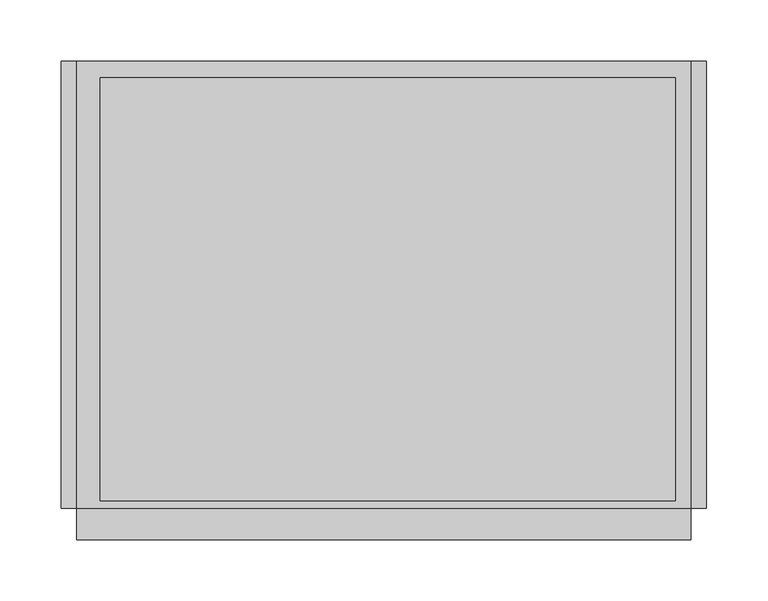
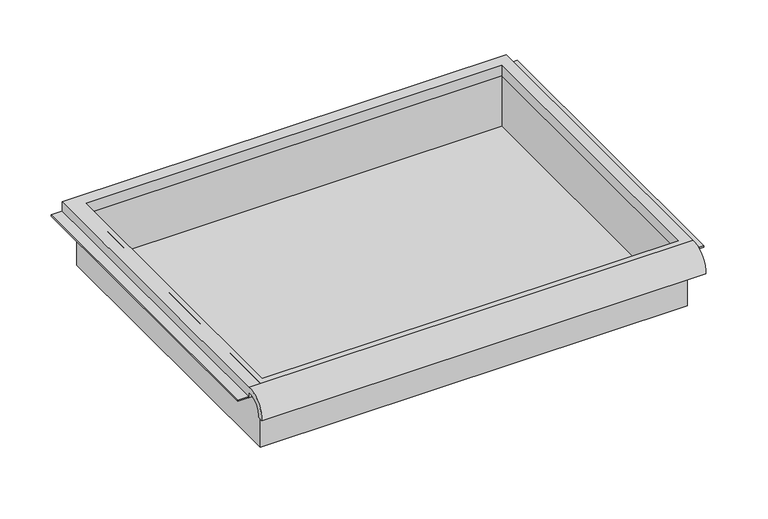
"""IFC4 building model written with IfcOpenShell, lengths in millimetres: furniture geometry."""

from ifc_helpers import new_model, si_unit, frame, origin, place, context, project, spatial, polyline, circle_curve, faceted_brep, source, transform, mapped, element, save
from ifc_brep_helpers import plane_surface, cylinder_surface, revolved_surface, advanced_brep


def furniture_97bd5955(model_context):
    return source(origin(), model_context, "Body", "SolidModel", [
        advanced_brep(
        [(263.7474999, -195.297482, 815.1824118), (263.7474999, -188.9125, 815.1824118), (263.7474999, -169.8625, 833.443885), (263.7474999, -169.8625, 827.0938846), (263.7474999, 195.2625, 827.0938846), (263.7474999, 195.2625, 839.793885), (263.7474999, -169.8625, 839.793885), (-237.9025001, -195.297482, 815.1824118), (-237.9025001, -169.8625, 839.793885), (-237.9025001, 195.2625, 839.793885), (-237.9025001, 195.2625, 827.0938846), (-237.9025001, -169.8625, 827.0938846), (-237.9025001, -169.8625, 833.443885), (-237.9025001, -188.9125, 815.1824118), (251.0474878, 181.9275, 827.0938846), (-218.8095642, 181.9275, 827.0938846), (-218.8095642, -163.5125, 827.0938846), (251.0474878, -163.5125, 827.0938846), (-218.8095642, 181.9275, 839.793885), (251.0474878, 181.9275, 839.793885), (251.0474878, -163.5125, 839.793885), (-218.8095642, -163.5125, 839.793885)],
        [
            (0, 1),
            (1, 2, circle_curve(frame((263.7474999, -172.3404634, 816.9618222), z_axis=(-1.0, 0.0, 0.0), x_axis=(0.0, 1.0, 0.0)), 16.6672942)),
            (2, 3),
            (3, 4),
            (4, 5),
            (5, 6),
            (6, 0, circle_curve(frame((263.7474999, -172.4601678, 817.0297122), z_axis=(1.0, 0.0, 0.0), x_axis=(0.0, 1.0, 0.0)), 22.9119061)),
            (7, 8, circle_curve(frame((-237.9025001, -172.4601678, 817.0297122), z_axis=(-1.0, 0.0, 0.0), x_axis=(0.0, 1.0, 0.0)), 22.9119061)),
            (8, 9),
            (9, 10),
            (10, 11),
            (11, 12),
            (12, 13, circle_curve(frame((-237.9025001, -172.3404634, 816.9618222), z_axis=(1.0, 0.0, 0.0), x_axis=(0.0, 1.0, 0.0)), 16.6672942)),
            (13, 7),
            (0, 7),
            (13, 1),
            (12, 2),
            (11, 3),
            (10, 4),
            (14, 15),
            (15, 16),
            (16, 17),
            (17, 14),
            (9, 5),
            (8, 6),
            (18, 19),
            (19, 20),
            (20, 21),
            (21, 18),
            (14, 19),
            (18, 15),
            (21, 16),
            (20, 17),
        ],
        [
            plane_surface(frame((263.7474999, -195.297482, 815.1824118), z_axis=(1.0, 0.0, 0.0), x_axis=(0.0, 1.0, 0.0))),
            plane_surface(frame((-237.9025001, -195.297482, 815.1824118), z_axis=(-1.0, 0.0, 0.0), x_axis=(0.0, -1.0, 0.0))),
            plane_surface(frame((263.7474999, -195.297482, 815.1824118), z_axis=(0.0, 0.0, -1.0), x_axis=(-1.0, 0.0, 0.0))),
            revolved_surface(polyline([(-237.9025001, -155.67316920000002, 816.9618222), (263.7474999, -155.67316920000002, 816.9618222)]), (-237.9025001, -172.3404634, 816.9618222), (-1.0, 0.0, 0.0)),
            plane_surface(frame((263.7474999, -169.8625, 833.443885), z_axis=(0.0, -1.0, 0.0), x_axis=(-1.0, 0.0, 0.0))),
            plane_surface(frame((263.7474999, -169.8625, 827.0938846), z_axis=(0.0, 0.0, -1.0), x_axis=(-1.0, 0.0, 0.0))),
            plane_surface(frame((263.7474999, 195.2625, 827.0938846), z_axis=(0.0, 1.0, 0.0), x_axis=(-1.0, 0.0, 0.0))),
            plane_surface(frame((263.7474999, 195.2625, 839.793885), z_axis=(0.0, 0.0, 1.0), x_axis=(-1.0, 0.0, 0.0))),
            cylinder_surface(frame((-237.9025001, -172.4601678, 817.0297122), z_axis=(1.0, 0.0, 0.0), x_axis=(0.0, 1.0, 0.0)), 22.9119061),
            plane_surface(frame((251.0474878, 181.9275, 839.793885), z_axis=(0.0, -1.0, 0.0), x_axis=(0.0, 0.0, -1.0))),
            plane_surface(frame((-218.8095642, 181.9275, 839.793885), z_axis=(1.0, 0.0, 0.0), x_axis=(0.0, 0.0, -1.0))),
            plane_surface(frame((-218.8095642, -163.5125, 839.793885), z_axis=(0.0, 1.0, 0.0), x_axis=(0.0, 0.0, -1.0))),
            plane_surface(frame((251.0474878, -163.5125, 839.793885), z_axis=(-1.0, 0.0, 0.0), x_axis=(0.0, 0.0, -1.0))),
        ],
        [
            (0, [[1, 2, 3, 4, 5, 6, 7]]),
            (1, [[8, 9, 10, 11, 12, 13, 14]]),
            (2, [[-1, 15, -14, 16]]),
            (3, [[-2, -16, -13, 17]]),
            (4, [[-3, -17, -12, 18]]),
            (5, [[-4, -18, -11, 19], [20, 21, 22, 23]]),
            (6, [[-5, -19, -10, 24]]),
            (7, [[-6, -24, -9, 25], [26, 27, 28, 29]]),
            (8, [[-7, -25, -8, -15]]),
            (9, [[30, -26, 31, -20]]),
            (10, [[-31, -29, 32, -21]]),
            (11, [[-32, -28, 33, -22]]),
            (12, [[-30, -23, -33, -27]]),
        ],
    ),
        faceted_brep([(-225.2025001, -169.8625, 763.593885), (257.3974878, -169.8625, 763.593885), (257.3974878, -169.8625, 839.793885), (-225.2025001, -169.8625, 839.793885), (-225.2025001, 188.9125, 763.593885), (-225.2025001, 188.9125, 839.793885), (257.3974878, 188.9125, 839.793885), (257.3974878, 188.9125, 763.593885), (-218.8095642, 181.9275, 839.793885), (251.0474878, 181.9275, 839.793885), (251.0474878, -163.5125, 839.793885), (-218.8095642, -163.5125, 839.793885), (251.0474878, 181.9275, 766.768885), (-218.8095642, 181.9275, 766.768885), (-218.8095642, -163.5125, 766.768885), (251.0474878, -163.5125, 766.768885)], [[[0, 1, 2, 3]], [[4, 5, 6, 7]], [[1, 0, 4, 7]], [[2, 1, 7, 6]], [[3, 2, 6, 5], [8, 9, 10, 11]], [[0, 3, 5, 4]], [[12, 13, 14, 15]], [[13, 12, 9, 8]], [[14, 13, 8, 11]], [[15, 14, 11, 10]], [[12, 15, 10, 9]]]),
        faceted_brep([(-250.6025001, 195.2625, 827.0938846), (-250.6025001, 195.2625, 828.6813846), (-231.5525001, 195.2625, 828.6813846), (-231.5525001, 195.2625, 827.0938846), (-250.6025001, -169.8625, 827.0938846), (-231.5525001, -169.8625, 827.0938846), (-231.5525001, -169.8625, 828.6813846), (-250.6025001, -169.8625, 828.6813846)], [[[0, 1, 2, 3]], [[4, 5, 6, 7]], [[1, 0, 4, 7]], [[2, 1, 7, 6]], [[3, 2, 6, 5]], [[0, 3, 5, 4]]]),
        faceted_brep([(276.4474999, 195.2625, 827.0938846), (263.7474999, 195.2625, 827.0938846), (263.7474999, 195.2625, 828.6813846), (276.4474999, 195.2625, 828.6813846), (276.4474999, -169.8625, 827.0938846), (276.4474999, -169.8625, 828.6813846), (263.7474999, -169.8625, 828.6813846), (263.7474999, -169.8625, 827.0938846)], [[[0, 1, 2, 3]], [[4, 5, 6, 7]], [[1, 0, 4, 7]], [[2, 1, 7, 6]], [[3, 2, 6, 5]], [[0, 3, 5, 4]]]),
    ])


if __name__ == "__main__":
    model = new_model("IFC4")
    model_context = context("Model", 3, world=origin())
    ifc_project = project(units=[si_unit("LENGTHUNIT", "METRE", prefix="MILLI")], contexts=[model_context])
    site = spatial("IfcSite", under=ifc_project)
    building = spatial("IfcBuilding", under=site)
    placement = place(None, origin())
    furniture_shape = furniture_97bd5955(model_context)
    element("IfcFurniture", 1, ObjectType="HermanMiller_Carts_CT501_Drawer : 3\"H x 15\"D x 20\"W", at=placement, inside=building, context=model_context, shape_type="MappedRepresentation", body=[
        mapped(furniture_shape, transform((0.0, 0.0, 0.0), x_axis=(1.0, 0.0, 0.0), y_axis=(0.0, 1.0, 0.0), z_axis=(0.0, 0.0, 1.0))),
    ])
    save(model, "model.ifc")
